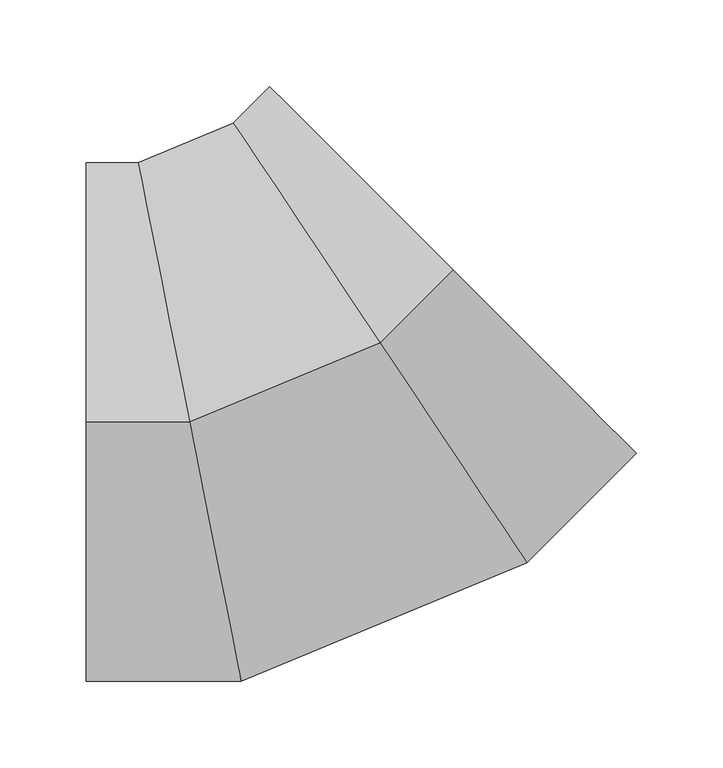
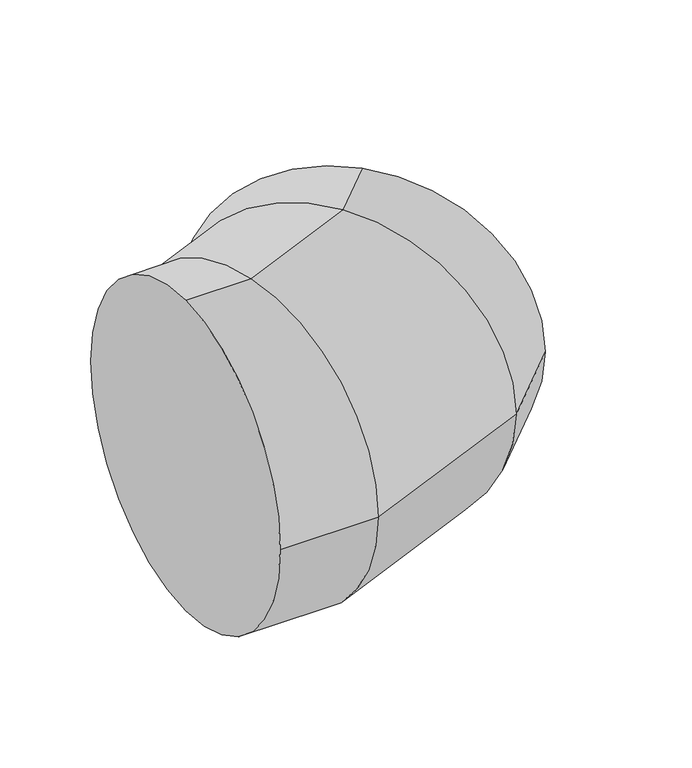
"""IFC4 building model written with IfcOpenShell, lengths in millimetres: duct fitting geometry, BL_ОтводВоздуховодов_Круглый : Ниппельное соединение."""

from ifc_helpers import new_model, si_unit, frame, origin, place, context, project, spatial, circle_curve, ellipse_curve, source, transform, mapped, element, save
from ifc_brep_helpers import plane_surface, cylinder_surface, advanced_brep


def duct_fitting_f76519de(model_context):
    return source(origin(), model_context, "Body", "AdvancedBrep", [
        advanced_brep(
        [(-124.2640687, 0.0, 150.0), (-124.2640687, 150.0, 0.0), (-124.2640687, 0.0, -150.0), (-124.2640687, -150.0, 0.0), (-64.5903585, 0.0, 150.0), (-94.4272136, 150.0, 0.0), (-64.5903585, 0.0, -150.0), (-34.7535034, -150.0, 0.0), (45.6722805, 45.6722805, 150.0), (-39.2958941, 172.8361402, 0.0), (45.6722805, 45.6722805, -150.0), (130.6404551, -81.4915793, 0.0), (87.8679656, 87.8679656, 150.0), (-18.1980515, 193.9339828, 0.0), (87.8679656, 87.8679656, -150.0), (193.9339828, -18.1980515, 0.0)],
        [
            (0, 1, circle_curve(frame((-124.2640687, 0.0, 0.0), z_axis=(-1.0, 0.0, 0.0), x_axis=(0.0, 1.0, 0.0)), 150.0)),
            (1, 2, circle_curve(frame((-124.2640687, 0.0, 0.0), z_axis=(-1.0, 0.0, 0.0), x_axis=(0.0, 1.0, 0.0)), 150.0)),
            (2, 3, circle_curve(frame((-124.2640687, 0.0, 0.0), z_axis=(-1.0, 0.0, 0.0), x_axis=(0.0, 1.0, 0.0)), 150.0)),
            (3, 0, circle_curve(frame((-124.2640687, 0.0, 0.0), z_axis=(-1.0, 0.0, 0.0), x_axis=(0.0, 1.0, 0.0)), 150.0)),
            (0, 4),
            (4, 5, ellipse_curve(frame((-64.5903585, 0.0, 0.0), z_axis=(-0.9807852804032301, -0.19509032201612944, 0.0), x_axis=(-0.19509032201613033, 0.98078528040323, 0.0)), 152.9386737, 150.0)),
            (5, 1),
            (5, 6, ellipse_curve(frame((-64.5903585, 0.0, 0.0), z_axis=(-0.9807852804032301, -0.19509032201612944, 0.0), x_axis=(-0.19509032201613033, 0.98078528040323, 0.0)), 152.9386737, 150.0)),
            (6, 2),
            (6, 7, ellipse_curve(frame((-64.5903585, 0.0, 0.0), z_axis=(-0.9807852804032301, -0.19509032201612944, 0.0), x_axis=(-0.19509032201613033, 0.98078528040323, 0.0)), 152.9386737, 150.0)),
            (7, 3),
            (7, 4, ellipse_curve(frame((-64.5903585, 0.0, 0.0), z_axis=(-0.9807852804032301, -0.19509032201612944, 0.0), x_axis=(-0.19509032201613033, 0.98078528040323, 0.0)), 152.9386737, 150.0)),
            (4, 8),
            (8, 9, ellipse_curve(frame((45.6722805, 45.6722805, 0.0), z_axis=(-0.8314696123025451, -0.5555702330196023, 0.0), x_axis=(-0.5555702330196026, 0.831469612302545, 0.0)), 152.9386737, 150.0)),
            (9, 5),
            (9, 10, ellipse_curve(frame((45.6722805, 45.6722805, 0.0), z_axis=(-0.8314696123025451, -0.5555702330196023, 0.0), x_axis=(-0.5555702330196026, 0.831469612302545, 0.0)), 152.9386737, 150.0)),
            (10, 6),
            (10, 11, ellipse_curve(frame((45.6722805, 45.6722805, 0.0), z_axis=(-0.8314696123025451, -0.5555702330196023, 0.0), x_axis=(-0.5555702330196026, 0.831469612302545, 0.0)), 152.9386737, 150.0)),
            (11, 7),
            (11, 8, ellipse_curve(frame((45.6722805, 45.6722805, 0.0), z_axis=(-0.8314696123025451, -0.5555702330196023, 0.0), x_axis=(-0.5555702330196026, 0.831469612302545, 0.0)), 152.9386737, 150.0)),
            (8, 12),
            (12, 13, circle_curve(frame((87.8679656, 87.8679656, 0.0), z_axis=(-0.707106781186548, -0.7071067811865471, 0.0), x_axis=(-0.7071067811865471, 0.707106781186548, 0.0)), 150.0)),
            (13, 9),
            (13, 14, circle_curve(frame((87.8679656, 87.8679656, 0.0), z_axis=(-0.707106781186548, -0.7071067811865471, 0.0), x_axis=(-0.7071067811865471, 0.707106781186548, 0.0)), 150.0)),
            (14, 10),
            (14, 15, circle_curve(frame((87.8679656, 87.8679656, 0.0), z_axis=(-0.707106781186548, -0.7071067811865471, 0.0), x_axis=(-0.7071067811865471, 0.707106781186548, 0.0)), 150.0)),
            (15, 11),
            (15, 12, circle_curve(frame((87.8679656, 87.8679656, 0.0), z_axis=(-0.707106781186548, -0.7071067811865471, 0.0), x_axis=(-0.7071067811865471, 0.707106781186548, 0.0)), 150.0)),
        ],
        [
            plane_surface(frame((-124.2640687, 0.0, 0.0), z_axis=(-1.0, 0.0, 0.0), x_axis=(0.0, 0.0, 1.0))),
            cylinder_surface(frame((-124.2640687, 0.0, 0.0), z_axis=(-1.0, 0.0, 0.0), x_axis=(0.0, 1.0, 0.0)), 150.0),
            cylinder_surface(frame((-64.5903585, 0.0, 0.0), z_axis=(-0.9238795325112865, -0.3826834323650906, 0.0), x_axis=(-0.3826834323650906, 0.9238795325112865, 0.0)), 150.0),
            cylinder_surface(frame((45.6722805, 45.6722805, 0.0), z_axis=(-0.707106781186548, -0.7071067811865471, 0.0), x_axis=(-0.7071067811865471, 0.707106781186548, 0.0)), 150.0),
            plane_surface(frame((87.8679656, 87.8679656, 0.0), z_axis=(0.7071067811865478, 0.7071067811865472, 0.0), x_axis=(0.0, 0.0, 1.0))),
        ],
        [
            (0, [[1, 2, 3, 4]]),
            (1, [[-1, 5, 6, 7]]),
            (1, [[-2, -7, 8, 9]]),
            (1, [[-3, -9, 10, 11]]),
            (1, [[-4, -11, 12, -5]]),
            (2, [[-6, 13, 14, 15]]),
            (2, [[-8, -15, 16, 17]]),
            (2, [[-10, -17, 18, 19]]),
            (2, [[-12, -19, 20, -13]]),
            (3, [[-14, 21, 22, 23]]),
            (3, [[-16, -23, 24, 25]]),
            (3, [[-18, -25, 26, 27]]),
            (3, [[-20, -27, 28, -21]]),
            (4, [[-28, -26, -24, -22]]),
        ],
    ),
    ])


if __name__ == "__main__":
    model = new_model("IFC4")
    model_context = context("Model", 3, world=origin())
    ifc_project = project(units=[si_unit("LENGTHUNIT", "METRE", prefix="MILLI")], contexts=[model_context])
    site = spatial("IfcSite", under=ifc_project)
    building = spatial("IfcBuilding", under=site)
    placement = place(None, origin())
    duct_fitting_shape = duct_fitting_f76519de(model_context)
    element("IfcDuctFitting", 1, ObjectType="BL_ОтводВоздуховодов_Круглый : Ниппельное соединение", at=placement, inside=building, context=model_context, shape_type="MappedRepresentation", body=[
        mapped(duct_fitting_shape, transform((0.0, 0.0, 0.0), x_axis=(1.0, 0.0, 0.0), y_axis=(0.0, 1.0, 0.0), z_axis=(0.0, 0.0, 1.0))),
    ])
    save(model, "model.ifc")
